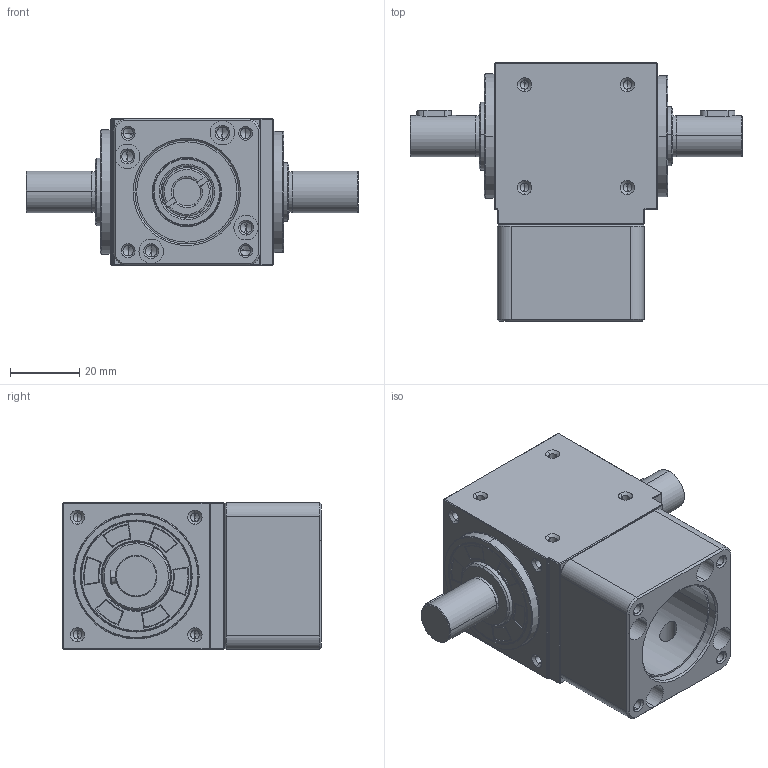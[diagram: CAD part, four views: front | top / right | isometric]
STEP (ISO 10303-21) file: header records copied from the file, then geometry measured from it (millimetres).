
FILE_DESCRIPTION (( 'STEP AP214' ), '1' );
FILE_NAME ('RAD-42_拻掀瞎磁璃.STEP', '2017-06-06T00:08:26', ( '' ), ( '' ), 'SwSTEP 2.0', 'SolidWorks 2015', '' );
FILE_SCHEMA (( 'AUTOMOTIVE_DESIGN' ));
Length unit declared in the file: millimetre
Products named in the file (12): RAD-42_拻掀瞎磁璃; 嵞創6802_15-28-5; RA-42倰_嘐隅眊; 雙頭圓鍵_4-4-10; RA-42型_傘型斜齒輪_2比_46T; RA-42倰_嘐隅眊楊帗_5掀--; basic internal retaining ring_am_B27.7M - 3BM1-34; radial ball bearing_68_jis_JIS B 1512-1 - 1820 - B,Full,DE,AC,Full_68; 蚐猾_VC 15-25-4; RA-42倰_褞堤薯嵞; 蚐猾_SC 20-32-5; RA-42型_傘型斜齒輪_2比_23T
Assembly tree (13 placements, depth 2):
  RAD-42_拻掀瞎磁璃
    RA-42倰_嘐隅眊
    RA-42倰_褞堤薯嵞
    RA-42型_傘型斜齒輪_2比_23T
    RA-42型_傘型斜齒輪_2比_46T
    basic internal retaining ring_am_B27.7M - 3BM1-34
    雙頭圓鍵_4-4-10  x2
    radial ball bearing_68_jis_JIS B 1512-1 - 1820 - B,Full,DE,AC,Full_68  x2
    嵞創6802_15-28-5
    蚐猾_SC 20-32-5
    蚐猾_VC 15-25-4
    RA-42倰_嘐隅眊楊帗_5掀--
Bounding box: 96 x 74.75 x 42.5 mm (x, y, z)
Volume: 112627.7 mm3; surface area: 58114.8 mm2
Topology: 14 solids, 14 shells, 1232 faces, 3477 edges, 2212 vertices
Faces by surface type: sphere 352, cylinder 293, torus 189, cone 180, plane 176, bspline 42
Entity records: 36373 total; most frequent: CARTESIAN_POINT 13357, ORIENTED_EDGE 4842, DIRECTION 4596, EDGE_CURVE 2421, AXIS2_PLACEMENT_3D 1965, VERTEX_POINT 1542, EDGE_LOOP 1109, CIRCLE 1049
